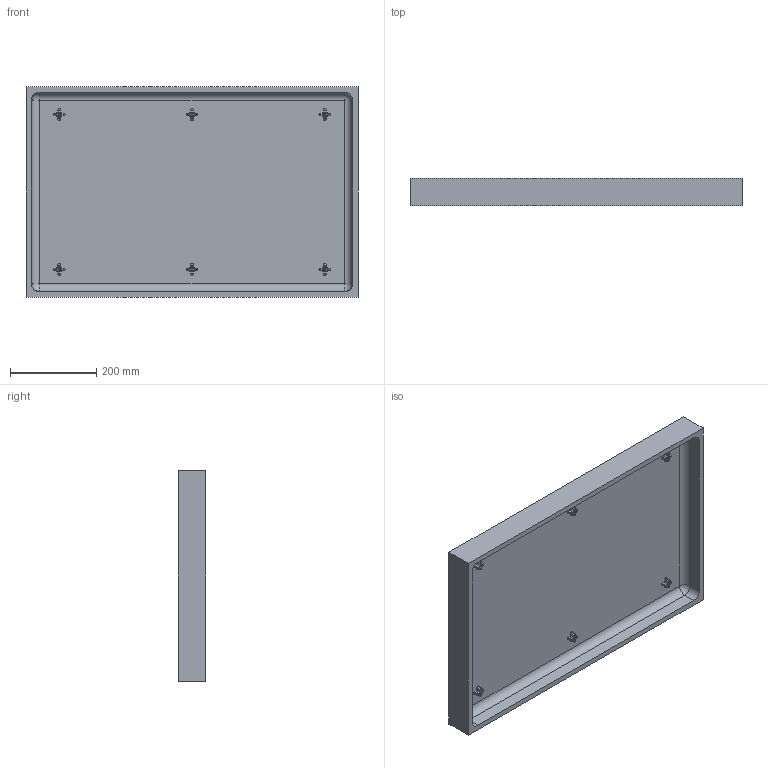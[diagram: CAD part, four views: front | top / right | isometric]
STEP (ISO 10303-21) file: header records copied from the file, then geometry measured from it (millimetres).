
FILE_DESCRIPTION (( 'STEP AP214' ), '1' );
FILE_NAME ('1652-931T-CLR.STEP', '2019-07-08T14:37:35', ( '' ), ( '' ), 'SwSTEP 2.0', 'SolidWorks 2016', '' );
FILE_SCHEMA (( 'AUTOMOTIVE_DESIGN' ));
Length unit declared in the file: inch
Products named in the file (1): 1652-931T-CLR
Bounding box: 768.42 x 63.5 x 486.77 mm (x, y, z)
Volume: 8311909.3 mm3; surface area: 1000300.6 mm2
Topology: 1 solids, 1 shells, 611 faces, 1400 edges, 706 vertices
Faces by surface type: bspline 188, cylinder 104, sphere 98, torus 96, plane 71, cone 54
Entity records: 20878 total; most frequent: CARTESIAN_POINT 8876, ORIENTED_EDGE 2592, DIRECTION 2444, EDGE_CURVE 1296, AXIS2_PLACEMENT_3D 1110, VERTEX_POINT 706, CIRCLE 686, EDGE_LOOP 630
